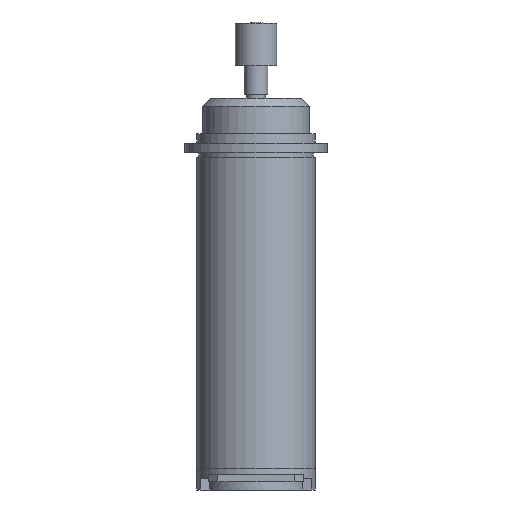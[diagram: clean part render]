
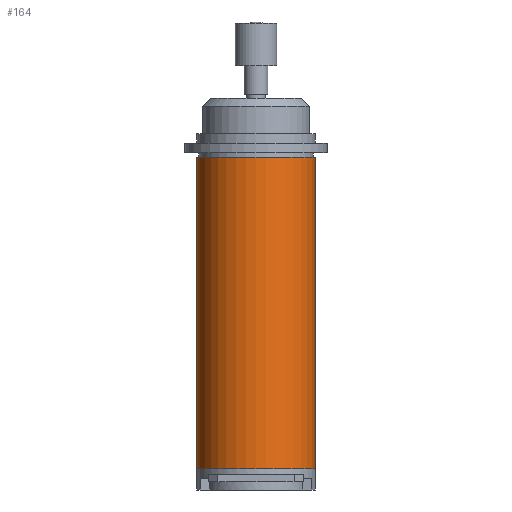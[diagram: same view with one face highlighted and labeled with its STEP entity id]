
A CAD part, front view. The second image highlights one B-rep face of the part: STEP entity #164.
In plain terms, the highlighted cylindrical face has radius 2.5 mm (diameter 5 mm), a full revolution.
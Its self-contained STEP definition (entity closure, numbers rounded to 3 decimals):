
#90=CYLINDRICAL_SURFACE('',#1416,2.5);
#110=FACE_BOUND('',#360,.T.);
#111=FACE_BOUND('',#361,.T.);
#164=ADVANCED_FACE('',(#110,#111),#90,.T.);
#360=EDGE_LOOP('',(#529));
#361=EDGE_LOOP('',(#530));
#473=CIRCLE('',#1414,2.5);
#474=CIRCLE('',#1415,2.5);
#529=ORIENTED_EDGE('',*,*,#1016,.T.);
#530=ORIENTED_EDGE('',*,*,#1017,.F.);
#885=VERTEX_POINT('',#1916);
#886=VERTEX_POINT('',#1918);
#1016=EDGE_CURVE('',#885,#885,#473,.T.);
#1017=EDGE_CURVE('',#886,#886,#474,.T.);
#1414=AXIS2_PLACEMENT_3D('',#1915,#1558,#1559);
#1415=AXIS2_PLACEMENT_3D('',#1917,#1560,#1561);
#1416=AXIS2_PLACEMENT_3D('',#1919,#1562,#1563);
#1558=DIRECTION('',(0.,0.,-1.));
#1559=DIRECTION('',(-1.,0.,0.));
#1560=DIRECTION('',(0.,0.,-1.));
#1561=DIRECTION('',(-1.,0.,0.));
#1562=DIRECTION('',(0.,0.,-1.));
#1563=DIRECTION('',(-1.,0.,0.));
#1915=CARTESIAN_POINT('',(0.,0.,-2.5));
#1916=CARTESIAN_POINT('',(-2.5,0.,-2.5));
#1917=CARTESIAN_POINT('',(0.,0.,-15.6));
#1918=CARTESIAN_POINT('',(-2.5,0.,-15.6));
#1919=CARTESIAN_POINT('',(0.,0.,-2.5));
